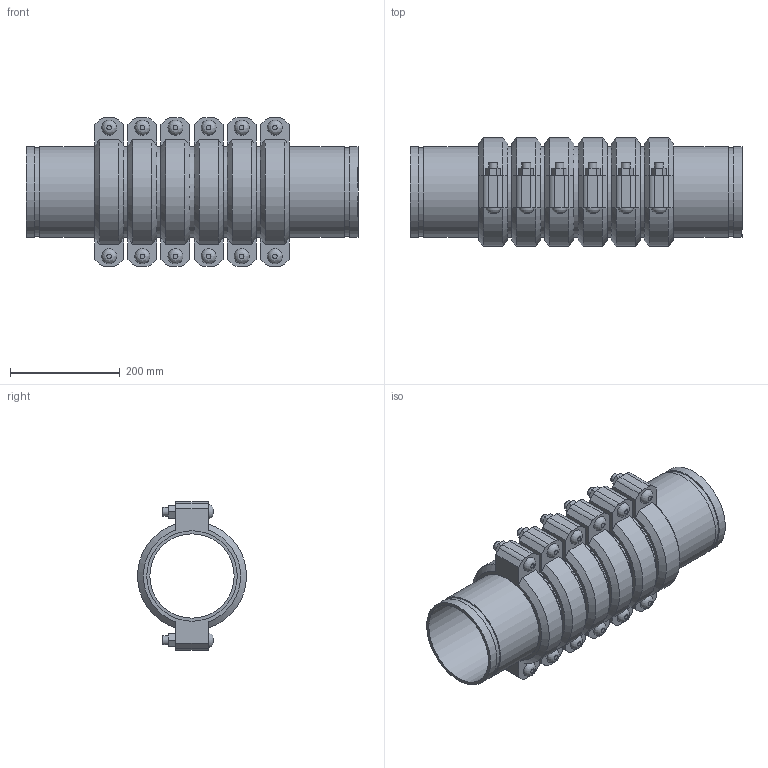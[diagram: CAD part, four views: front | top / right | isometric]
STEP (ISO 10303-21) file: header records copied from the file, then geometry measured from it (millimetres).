
FILE_DESCRIPTION(/* description */ ('VIC EXPANSION JOINT 6 COUPLINGS COMPRESSED STYLE 155 (OGS)','CAx-IF Rec.Pracs.---Representation and Presentation of Product Manufacturing Information (PMI)---4.0---2014-10-13'),/* implementation_level */ '2;1');
FILE_NAME(/* name */ 'C:\Users\kkamble\AppData\Roaming\Autodesk\ApplicationPlugins\Victaulic.Temp\A354\Victaulic_IPS_Expansion Joint_Compressed_6 Couplings_Style 155 (OGS)_06.0 (165.1) (150).stp',/* time_stamp */ '2021-06-27T00:32:10+02:00',/* author */ ('kkamble'),/* organization */ ('Victaulic'),/* preprocessor_version */ 'ST-DEVELOPER v17.2',/* originating_system */ 'Autodesk Inventor 2019',/* authorisation */ '');
FILE_SCHEMA (('AP242_MANAGED_MODEL_BASED_3D_ENGINEERING_MIM_LF { 1 0 10303 442 1 1 4 }'));
Length unit declared in the file: inch
Products named in the file (4): 155-06.0 (165.1); Nipple-06.0 (165.1); Nipple-06.0 (165.1)_1; 075_6_Coup-06.0 (165.1)
Assembly tree (13 placements, depth 2):
  155-06.0 (165.1)
    Nipple-06.0 (165.1)  x2
    Nipple-06.0 (165.1)_1  x5
    075_6_Coup-06.0 (165.1)  x6
Bounding box: 606.3 x 198.42 x 270.76 mm (x, y, z)
Volume: 5745358.5 mm3; surface area: 1325730.8 mm2
Topology: 13 solids, 25 shells, 426 faces, 1008 edges, 708 vertices
Faces by surface type: plane 258, cylinder 132, cone 24, bspline 12
Full cylindrical faces by diameter (mm): 15.875 x24, 17.424 x12, 153.975 x7, 158.75 x6, 160.782 x14, 165.1 x33
Entity records: 2826 total; most frequent: CARTESIAN_POINT 497, DIRECTION 469, ORIENTED_EDGE 386, EDGE_CURVE 193, AXIS2_PLACEMENT_3D 188, VERTEX_POINT 138, EDGE_LOOP 107, LINE 93
